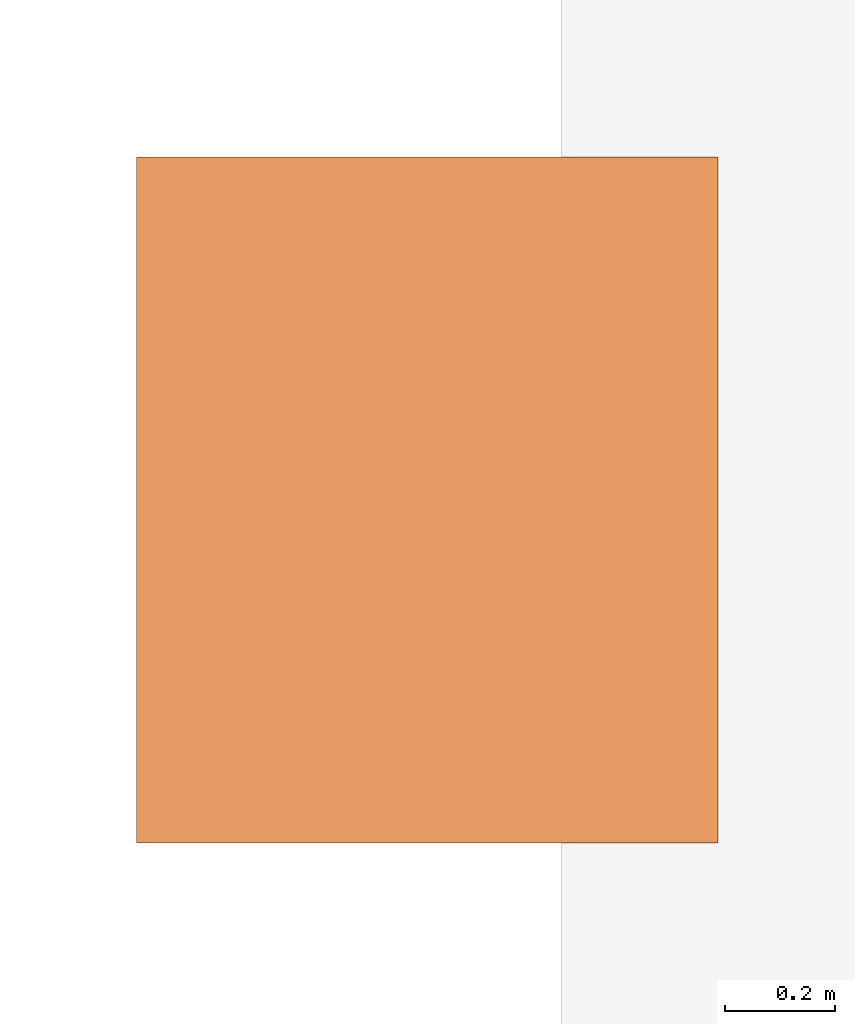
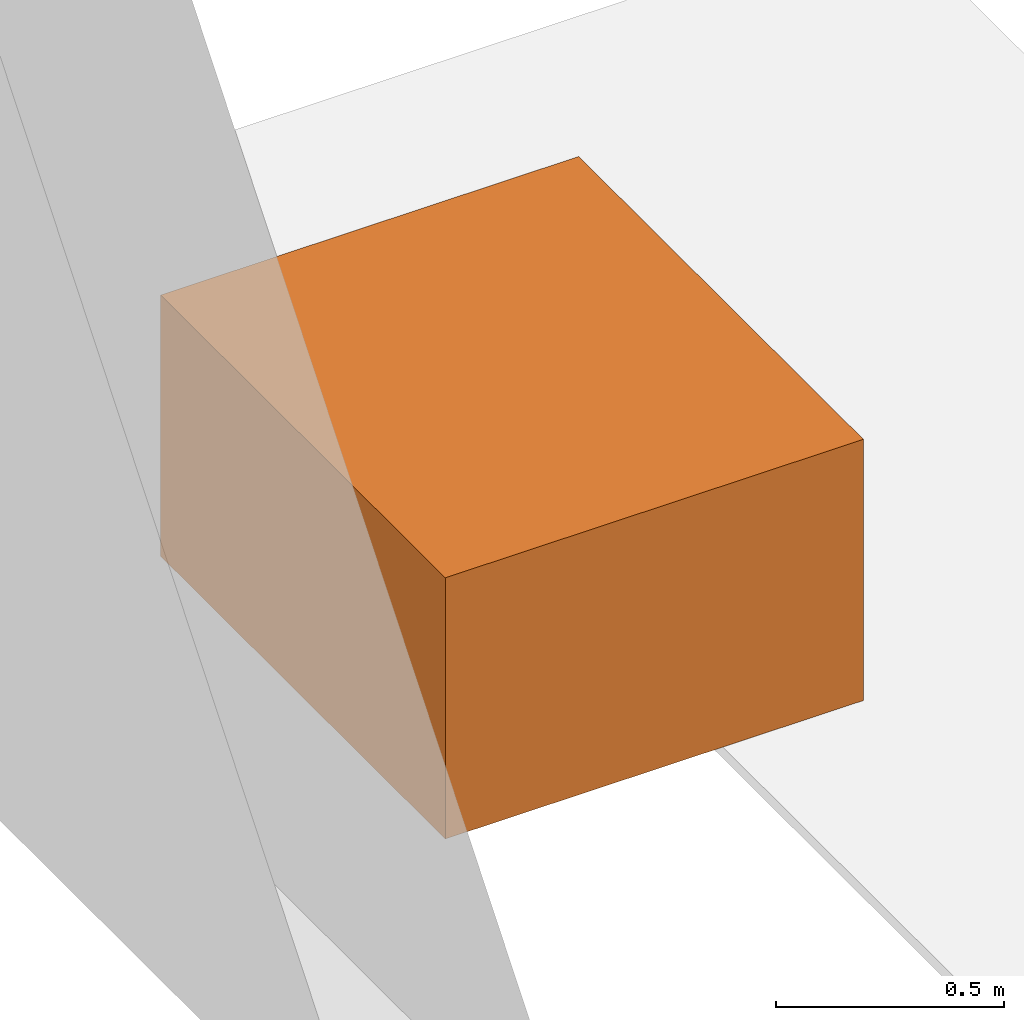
# One storey, part 2 of 2: 1 proxy.
"""IFC2X3 building model written with IfcOpenShell, lengths in millimetres."""

from ifc_helpers import new_model, entity, si_unit, converted_unit, direction, frame, origin, origin_2d_with_axis, place, context, subcontext, project, spatial, rectangle, extrude, source, transform, mapped, material, type_object, type_shapes, element, save


model = new_model("IFC2X3")

# Units and contexts
model_context = context("Model", 3, precision=0.01, world=origin(), true_north=direction((6.123233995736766e-17, 1.0)))
body_context = subcontext(model_context, "Body", "Model", "MODEL_VIEW")
ifc_project = project(units=[si_unit("LENGTHUNIT", "METRE", prefix="MILLI"), si_unit("AREAUNIT", "SQUARE_METRE"), converted_unit("PLANEANGLEUNIT", "DEGREE", entity("IfcPlaneAngleMeasure", 0.017453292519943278), si_unit("PLANEANGLEUNIT", "RADIAN"), dimensions=[0, 0, 0, 0, 0, 0, 0])], contexts=[model_context])

# Site, building, storey
site_placement = place(None, origin())
site = spatial("IfcSite", under=ifc_project, at=site_placement, Name="Default", CompositionType="ELEMENT")
building_placement = place(site_placement, origin())
building = spatial("IfcBuilding", under=site, at=building_placement, CompositionType="ELEMENT")
storey_placement = place(building_placement, frame((0.0, 0.0, 17070.0)))
storey = spatial("IfcBuildingStorey", under=building, at=storey_placement, Name="5e verdieping", CompositionType="ELEMENT", Elevation=17070.0)

# Proxy
ifc_material = material(Name="Staal-PBRI")
building_element_proxy_type = type_object("IfcBuildingElementProxyType", Name="Lier bestaand:Lier centercluster", PredefinedType="NOTDEFINED", material=ifc_material)
shared_shape = source(origin(), body_context, "Body", "SweptSolid", [
    extrude(rectangle(XDim=1060.0, YDim=1250.0, at=origin_2d_with_axis()), frame((0.0, -625.0, 0.0), z_axis=(0.0, 0.0, 1.0), x_axis=(-1.0, 0.0, 0.0)), (0.0, 0.0, 1.0), 700.0),
])
type_shapes(building_element_proxy_type, [shared_shape])
proxy_placement = place(storey_placement, frame((26144.24493143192, 34581.16790690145, 100.0)))
element("IfcBuildingElementProxy", 1, at=proxy_placement, inside=storey, type_object=building_element_proxy_type, material=ifc_material, Name="Lier bestaand:Lier centercluster", ObjectType="Lier bestaand:Lier centercluster", context=body_context, shape_type="MappedRepresentation", body=[
    mapped(shared_shape, transform((0.0, 0.0, 0.0), scale=1.0)),
])

save(model, "model.ifc")
